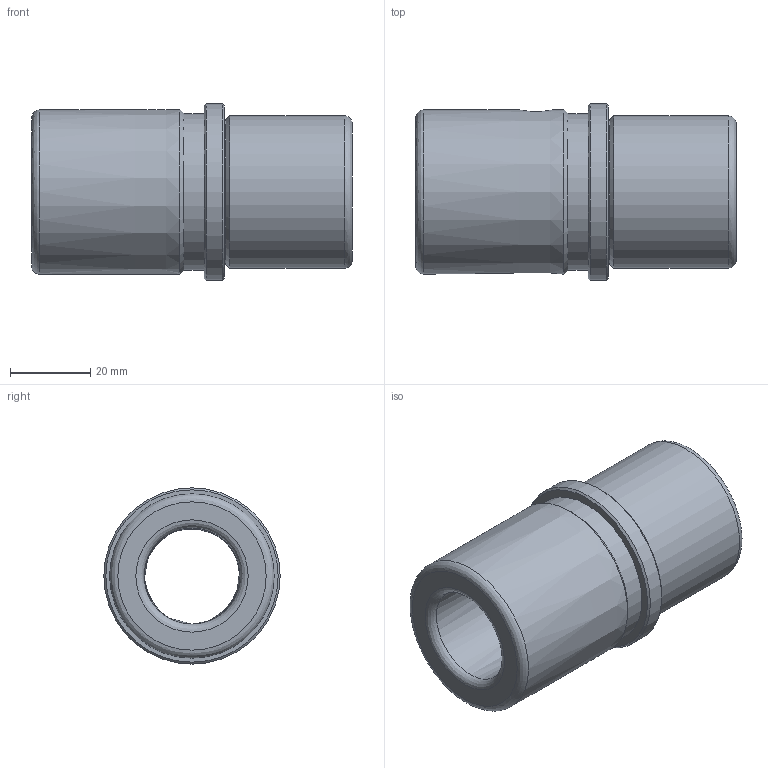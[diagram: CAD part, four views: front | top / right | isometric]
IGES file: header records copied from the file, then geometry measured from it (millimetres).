
Start section: Data from Parasolid IGES Translator 20.0.26, Copyright(c) 2006 Siemens P LM Software. All Rights Reserved.
Global section: file name: WZ - 4051 24 x 80.igs; native system: By Siemens PLM Incorporated; preprocessor: XPlus GENERIC/IGES 20.0.26; author: Noname; organization: Noname; date: 20201203.205048; units: millimetre
Bounding box: 80 x 44 x 44 mm (x, y, z)
Surface area: 18377.2 mm2 (no closed solid volume)
Topology: 0 solids, 0 shells, 21 faces, 82 edges, 59 vertices
Faces by surface type: revolution 16, extrusion 5
